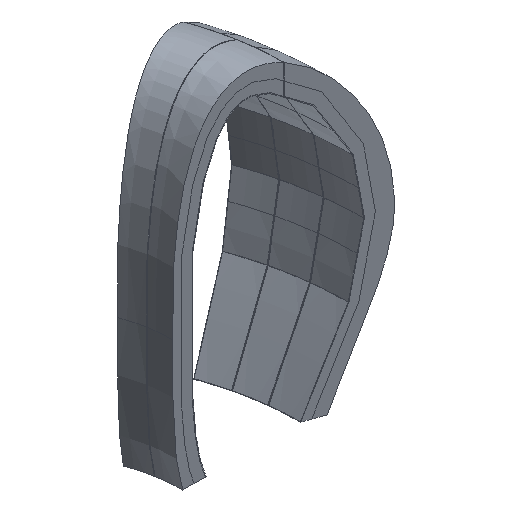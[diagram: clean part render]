
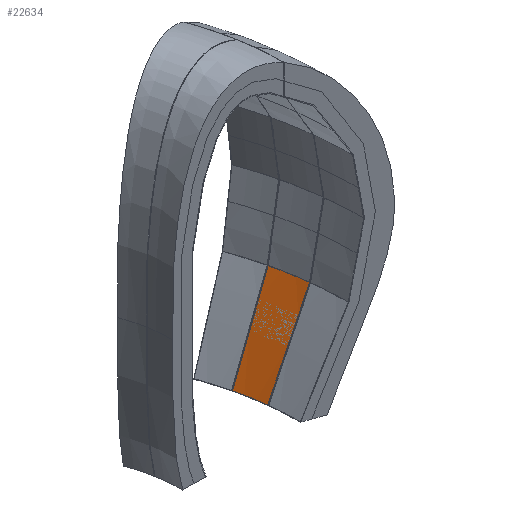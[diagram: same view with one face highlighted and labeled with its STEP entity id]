
A CAD part, isometric view. The second image highlights one B-rep face of the part: STEP entity #22634.
In plain terms, the highlighted conical face has half-angle 30.978 degrees and reference radius 11770.7 mm.
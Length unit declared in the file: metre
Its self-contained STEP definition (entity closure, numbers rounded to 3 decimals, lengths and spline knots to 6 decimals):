
#21440 = PLANE('',#21441);
#21441 = AXIS2_PLACEMENT_3D('',#21442,#21443,#21444);
#21442 = CARTESIAN_POINT('',(10.804759,1.272963,
    -0.031181));
#21443 = DIRECTION('',(0.116,-0.993,-0.));
#21444 = DIRECTION('',(0.,0.,-1.));
#21503 = PLANE('',#21504);
#21504 = AXIS2_PLACEMENT_3D('',#21505,#21506,#21507);
#21505 = CARTESIAN_POINT('',(10.588531,2.499251,
    -0.031181));
#21506 = DIRECTION('',(0.231,-0.973,-0.));
#21507 = DIRECTION('',(0.,0.,-1.));
#21757 = VERTEX_POINT('',#21758);
#21758 = CARTESIAN_POINT('',(11.689946,1.376427,
    -2.465396));
#21773 = CONICAL_SURFACE('',#21774,12.353389,0.235);
#21774 = AXIS2_PLACEMENT_3D('',#21775,#21776,#21777);
#21775 = CARTESIAN_POINT('',(0.,0.,-0.02902));
#21776 = DIRECTION('',(0.,0.,1.));
#21777 = DIRECTION('',(1.,0.,0.));
#21788 = EDGE_CURVE('',#21757,#21789,#21791,.T.);
#21789 = VERTEX_POINT('',#21790);
#21790 = CARTESIAN_POINT('',(9.906826,1.16801,
    -5.455786));
#21791 = SURFACE_CURVE('',#21792,(#21797,#21804),.PCURVE_S1.);
#21792 = HYPERBOLA('',#21793,0.016657,0.01);
#21793 = AXIS2_PLACEMENT_3D('',#21794,#21795,#21796);
#21794 = CARTESIAN_POINT('',(-0.001161,0.009932,
    -22.072039));
#21795 = DIRECTION('',(0.116,-0.993,-0.));
#21796 = DIRECTION('',(0.,-0.,1.));
#21797 = PCURVE('',#21440,#21798);
#21798 = DEFINITIONAL_REPRESENTATION('',(#21799),#21803);
#21799 = ( BOUNDED_CURVE() B_SPLINE_CURVE(2,(#21800,#21801,#21802),
.UNSPECIFIED.,.F.,.F.) B_SPLINE_CURVE_WITH_KNOTS((3,3),(-7.763931,
-7.598443),.PIECEWISE_BEZIER_KNOTS.) CURVE() 
GEOMETRIC_REPRESENTATION_ITEM() RATIONAL_B_SPLINE_CURVE((1.,
1.003,1.)) REPRESENTATION_ITEM('') );
#21800 = CARTESIAN_POINT('',(2.434,0.891));
#21801 = CARTESIAN_POINT('',(4.053,-0.081));
#21802 = CARTESIAN_POINT('',(5.425,-0.904));
#21803 = ( GEOMETRIC_REPRESENTATION_CONTEXT(2) 
PARAMETRIC_REPRESENTATION_CONTEXT() REPRESENTATION_CONTEXT('2D SPACE',''
  ) );
#21804 = PCURVE('',#21805,#21810);
#21805 = CONICAL_SURFACE('',#21806,11.7707,0.541);
#21806 = AXIS2_PLACEMENT_3D('',#21807,#21808,#21809);
#21807 = CARTESIAN_POINT('',(0.,0.,-2.465396));
#21808 = DIRECTION('',(0.,0.,1.));
#21809 = DIRECTION('',(1.,0.,0.));
#21810 = DEFINITIONAL_REPRESENTATION('',(#21811),#21818);
#21811 = B_SPLINE_CURVE_WITH_KNOTS('',5,(#21812,#21813,#21814,#21815,
    #21816,#21817),.UNSPECIFIED.,.F.,.F.,(6,6),(-7.763931,
    -7.598443),.PIECEWISE_BEZIER_KNOTS.);
#21812 = CARTESIAN_POINT('',(0.117,0.));
#21813 = CARTESIAN_POINT('',(0.117,-0.649));
#21814 = CARTESIAN_POINT('',(0.117,-1.271));
#21815 = CARTESIAN_POINT('',(0.117,-1.868));
#21816 = CARTESIAN_POINT('',(0.117,-2.44));
#21817 = CARTESIAN_POINT('',(0.117,-2.99));
#21818 = ( GEOMETRIC_REPRESENTATION_CONTEXT(2) 
PARAMETRIC_REPRESENTATION_CONTEXT() REPRESENTATION_CONTEXT('2D SPACE',''
  ) );
#21837 = CONICAL_SURFACE('',#21838,11.902751,1.309);
#21838 = AXIS2_PLACEMENT_3D('',#21839,#21840,#21841);
#21839 = CARTESIAN_POINT('',(0.,0.,-5.972207));
#21840 = DIRECTION('',(-0.,-0.,-1.));
#21841 = DIRECTION('',(1.,0.,-0.));
#22226 = VERTEX_POINT('',#22227);
#22227 = CARTESIAN_POINT('',(11.455722,2.704779,
    -2.465396));
#22252 = EDGE_CURVE('',#22226,#22253,#22255,.T.);
#22253 = VERTEX_POINT('',#22254);
#22254 = CARTESIAN_POINT('',(9.708854,2.290764,
    -5.455786));
#22255 = SURFACE_CURVE('',#22256,(#22261,#22268),.PCURVE_S1.);
#22256 = HYPERBOLA('',#22257,0.016657,0.01);
#22257 = AXIS2_PLACEMENT_3D('',#22258,#22259,#22260);
#22258 = CARTESIAN_POINT('',(0.002306,-0.00973,
    -22.072039));
#22259 = DIRECTION('',(0.231,-0.973,-0.));
#22260 = DIRECTION('',(0.,-0.,1.));
#22261 = PCURVE('',#21503,#22262);
#22262 = DEFINITIONAL_REPRESENTATION('',(#22263),#22267);
#22263 = ( BOUNDED_CURVE() B_SPLINE_CURVE(2,(#22264,#22265,#22266),
.UNSPECIFIED.,.F.,.F.) B_SPLINE_CURVE_WITH_KNOTS((3,3),(-7.763931,
-7.598443),.PIECEWISE_BEZIER_KNOTS.) CURVE() 
GEOMETRIC_REPRESENTATION_ITEM() RATIONAL_B_SPLINE_CURVE((1.,
1.003,1.)) REPRESENTATION_ITEM('') );
#22264 = CARTESIAN_POINT('',(2.434,0.891));
#22265 = CARTESIAN_POINT('',(4.053,-0.081));
#22266 = CARTESIAN_POINT('',(5.425,-0.904));
#22267 = ( GEOMETRIC_REPRESENTATION_CONTEXT(2) 
PARAMETRIC_REPRESENTATION_CONTEXT() REPRESENTATION_CONTEXT('2D SPACE',''
  ) );
#22268 = PCURVE('',#21805,#22269);
#22269 = DEFINITIONAL_REPRESENTATION('',(#22270),#22277);
#22270 = B_SPLINE_CURVE_WITH_KNOTS('',5,(#22271,#22272,#22273,#22274,
    #22275,#22276),.UNSPECIFIED.,.F.,.F.,(6,6),(-7.763931,
    -7.598443),.PIECEWISE_BEZIER_KNOTS.);
#22271 = CARTESIAN_POINT('',(0.232,0.));
#22272 = CARTESIAN_POINT('',(0.232,-0.649));
#22273 = CARTESIAN_POINT('',(0.232,-1.271));
#22274 = CARTESIAN_POINT('',(0.232,-1.868));
#22275 = CARTESIAN_POINT('',(0.232,-2.44));
#22276 = CARTESIAN_POINT('',(0.232,-2.99));
#22277 = ( GEOMETRIC_REPRESENTATION_CONTEXT(2) 
PARAMETRIC_REPRESENTATION_CONTEXT() REPRESENTATION_CONTEXT('2D SPACE',''
  ) );
#22613 = EDGE_CURVE('',#21789,#22253,#22614,.T.);
#22614 = SURFACE_CURVE('',#22615,(#22620,#22627),.PCURVE_S1.);
#22615 = CIRCLE('',#22616,9.975442);
#22616 = AXIS2_PLACEMENT_3D('',#22617,#22618,#22619);
#22617 = CARTESIAN_POINT('',(0.,0.,-5.455786));
#22618 = DIRECTION('',(0.,0.,1.));
#22619 = DIRECTION('',(1.,0.,-0.));
#22620 = PCURVE('',#21837,#22621);
#22621 = DEFINITIONAL_REPRESENTATION('',(#22622),#22626);
#22622 = LINE('',#22623,#22624);
#22623 = CARTESIAN_POINT('',(-0.,-0.516));
#22624 = VECTOR('',#22625,1.);
#22625 = DIRECTION('',(-1.,-0.));
#22626 = ( GEOMETRIC_REPRESENTATION_CONTEXT(2) 
PARAMETRIC_REPRESENTATION_CONTEXT() REPRESENTATION_CONTEXT('2D SPACE',''
  ) );
#22627 = PCURVE('',#21805,#22628);
#22628 = DEFINITIONAL_REPRESENTATION('',(#22629),#22633);
#22629 = LINE('',#22630,#22631);
#22630 = CARTESIAN_POINT('',(0.,-2.99));
#22631 = VECTOR('',#22632,1.);
#22632 = DIRECTION('',(1.,-0.));
#22633 = ( GEOMETRIC_REPRESENTATION_CONTEXT(2) 
PARAMETRIC_REPRESENTATION_CONTEXT() REPRESENTATION_CONTEXT('2D SPACE',''
  ) );
#22634 = ADVANCED_FACE('',(#22635),#21805,.F.);
#22635 = FACE_BOUND('',#22636,.T.);
#22636 = EDGE_LOOP('',(#22637,#22638,#22660,#22661));
#22637 = ORIENTED_EDGE('',*,*,#21788,.F.);
#22638 = ORIENTED_EDGE('',*,*,#22639,.T.);
#22639 = EDGE_CURVE('',#21757,#22226,#22640,.T.);
#22640 = SURFACE_CURVE('',#22641,(#22646,#22653),.PCURVE_S1.);
#22641 = CIRCLE('',#22642,11.7707);
#22642 = AXIS2_PLACEMENT_3D('',#22643,#22644,#22645);
#22643 = CARTESIAN_POINT('',(0.,0.,-2.465396));
#22644 = DIRECTION('',(0.,0.,1.));
#22645 = DIRECTION('',(1.,0.,-0.));
#22646 = PCURVE('',#21805,#22647);
#22647 = DEFINITIONAL_REPRESENTATION('',(#22648),#22652);
#22648 = LINE('',#22649,#22650);
#22649 = CARTESIAN_POINT('',(0.,-0.));
#22650 = VECTOR('',#22651,1.);
#22651 = DIRECTION('',(1.,-0.));
#22652 = ( GEOMETRIC_REPRESENTATION_CONTEXT(2) 
PARAMETRIC_REPRESENTATION_CONTEXT() REPRESENTATION_CONTEXT('2D SPACE',''
  ) );
#22653 = PCURVE('',#21773,#22654);
#22654 = DEFINITIONAL_REPRESENTATION('',(#22655),#22659);
#22655 = LINE('',#22656,#22657);
#22656 = CARTESIAN_POINT('',(0.,-2.436));
#22657 = VECTOR('',#22658,1.);
#22658 = DIRECTION('',(1.,-0.));
#22659 = ( GEOMETRIC_REPRESENTATION_CONTEXT(2) 
PARAMETRIC_REPRESENTATION_CONTEXT() REPRESENTATION_CONTEXT('2D SPACE',''
  ) );
#22660 = ORIENTED_EDGE('',*,*,#22252,.T.);
#22661 = ORIENTED_EDGE('',*,*,#22613,.F.);
